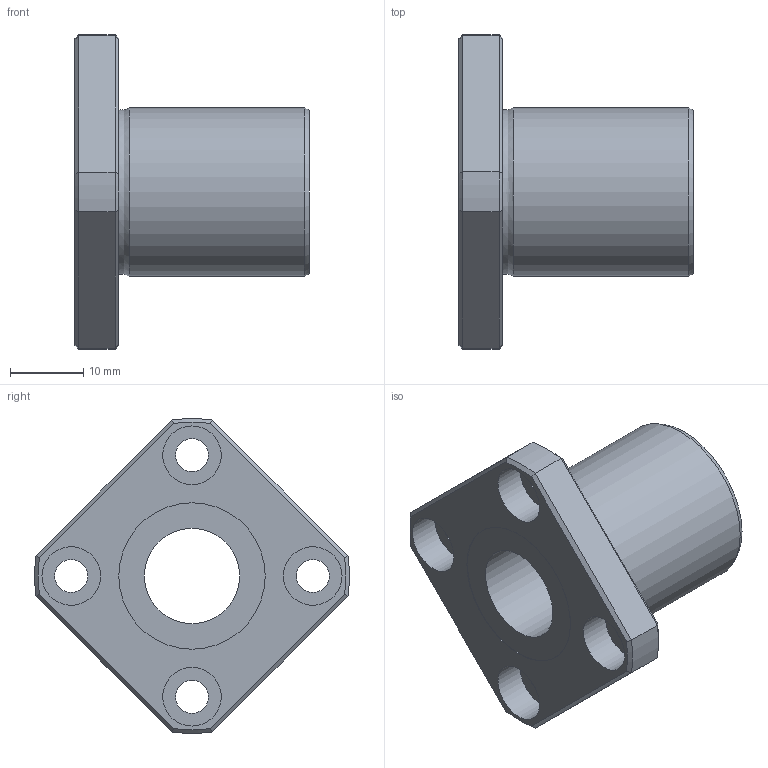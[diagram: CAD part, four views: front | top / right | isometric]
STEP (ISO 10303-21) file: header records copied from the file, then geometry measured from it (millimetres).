
FILE_DESCRIPTION((''),'2;1');
FILE_NAME('D:\製品 (図面)\カタログ用3D\リニアベアリング関連\STEP形式\LFK\LFK13.stp','2010-06-04T08:48:20',('Tsuchiya'),(''),'Autodesk Inventor 10','Autodesk Inventor 10','');
FILE_SCHEMA(('AUTOMOTIVE_DESIGN { 1 0 10303 214 1 1 1 1 }'));
Length unit declared in the file: millimetre
Products named in the file (1): LFK13
Bounding box: 32 x 42.96 x 42.96 mm (x, y, z)
Volume: 12257.9 mm3; surface area: 6270.1 mm2
Topology: 1 solids, 1 shells, 47 faces, 96 edges, 58 vertices
Faces by surface type: plane 21, cylinder 16, cone 8, torus 1, bspline 1
Full cylindrical faces by diameter (mm): 4.5 x4, 8 x4, 13 x1, 20 x2, 23 x1
Entity records: 1275 total; most frequent: CARTESIAN_POINT 298, DIRECTION 202, ORIENTED_EDGE 164, AXIS2_PLACEMENT_3D 89, EDGE_CURVE 82, EDGE_LOOP 78, VERTEX_POINT 58, FACE_OUTER_BOUND 47
